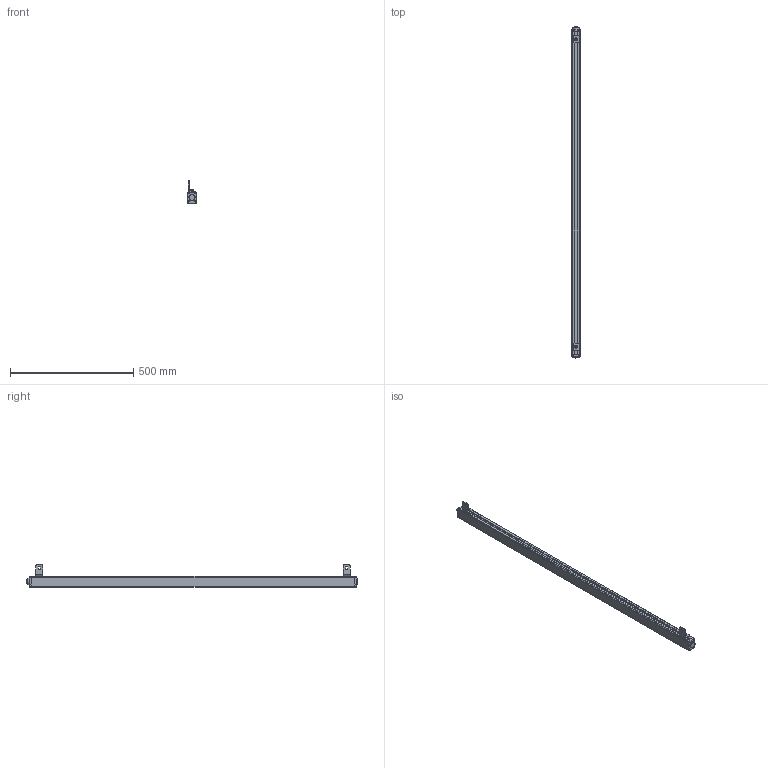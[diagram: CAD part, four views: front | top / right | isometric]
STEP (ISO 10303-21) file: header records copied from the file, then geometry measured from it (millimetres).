
FILE_DESCRIPTION((''),'2;1');
FILE_NAME('ESCL-00_ASM','2021-07-17T11:09:43',('18720616900'),(''),'CREO PARAMETRIC BY PTC INC, 2019010','CREO PARAMETRIC BY PTC INC, 2019010','');
FILE_SCHEMA(('CONFIG_CONTROL_DESIGN'));
Products named in the file (12): ESCL-00; ESCL-3-SOLID1000; ESCL-4-SOLID1000; HKCT1_-4-SOLID1; L10001; M6-8--0001; M6-1--00; M6-1-00; 00; M6-80001_ASM; L1--0001_ASM; ESCL-00_ASM
Assembly tree (12 placements, depth 4):
  ESCL-00_ASM
    ESCL-00
    ESCL-3-SOLID1000
    ESCL-4-SOLID1000
    HKCT1_-4-SOLID1
    L1--0001_ASM  x2
      L10001
      M6-80001_ASM
        M6-8--0001
        M6-1--00
        M6-1-00
        00
Bounding box: 36.1 x 1345.1 x 91.11 mm (x, y, z)
Volume: 1922066.7 mm3; surface area: 284310.1 mm2
Topology: 14 solids, 14 shells, 625 faces, 1645 edges, 1070 vertices
Faces by surface type: plane 226, cylinder 208, cone 78, bspline 66, torus 47
Entity records: 76177 total; most frequent: CARTESIAN_POINT 63991, ORIENTED_EDGE 2664, DIRECTION 2275, EDGE_CURVE 1332, VERTEX_POINT 872, AXIS2_PLACEMENT_3D 816, VECTOR 643, LINE 643
